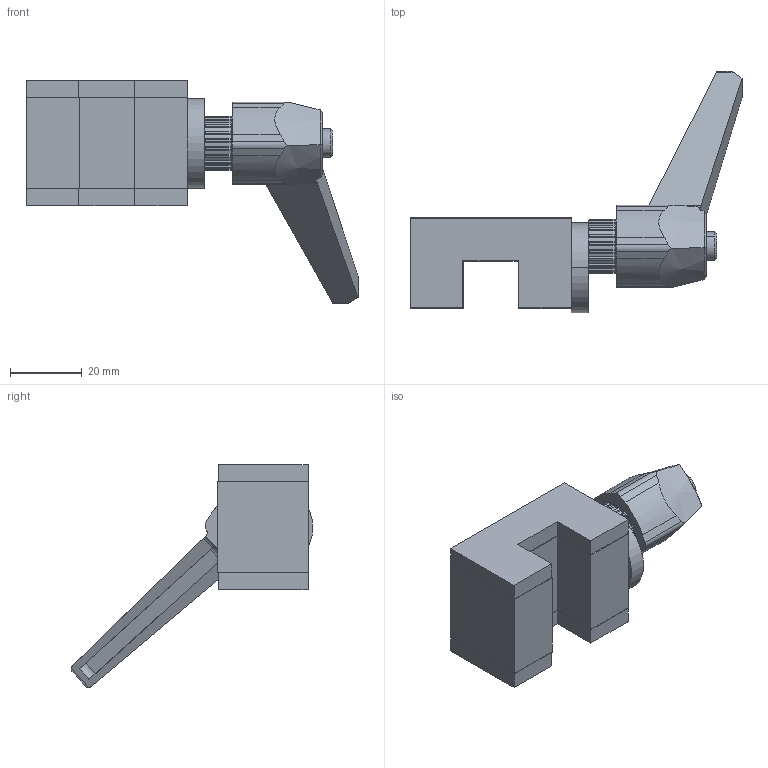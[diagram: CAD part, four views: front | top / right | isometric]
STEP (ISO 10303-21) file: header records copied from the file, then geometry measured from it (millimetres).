
FILE_DESCRIPTION (( 'STEP AP203' ), '1' );
FILE_NAME ('TRAVA TRILHO_15.STEP', '2023-09-14T17:51:34', ( '' ), ( '' ), 'SwSTEP 2.0', 'SolidWorks 2019', '' );
FILE_SCHEMA (( 'CONFIG_CONTROL_DESIGN' ));
Length unit declared in the file: millimetre
Products named in the file (5): MOEDA_15; BLOCO PRINCIPAL_15; BN_14189_1563289_adjustable_handle_41451; TRAVA TRILHO_15; TAMPA_15
Assembly tree (5 placements, depth 2):
  TRAVA TRILHO_15
    BLOCO PRINCIPAL_15
    TAMPA_15  x2
    MOEDA_15
    BN_14189_1563289_adjustable_handle_41451
Bounding box: 92.56 x 67.3 x 62.12 mm (x, y, z)
Volume: 47419.5 mm3; surface area: 20103.5 mm2
Topology: 5 solids, 5 shells, 231 faces, 623 edges, 405 vertices
Faces by surface type: plane 110, cylinder 81, cone 40
Entity records: 7700 total; most frequent: CARTESIAN_POINT 1630, ORIENTED_EDGE 1178, DIRECTION 1139, EDGE_CURVE 589, AXIS2_PLACEMENT_3D 406, VERTEX_POINT 389, LINE 327, VECTOR 327
